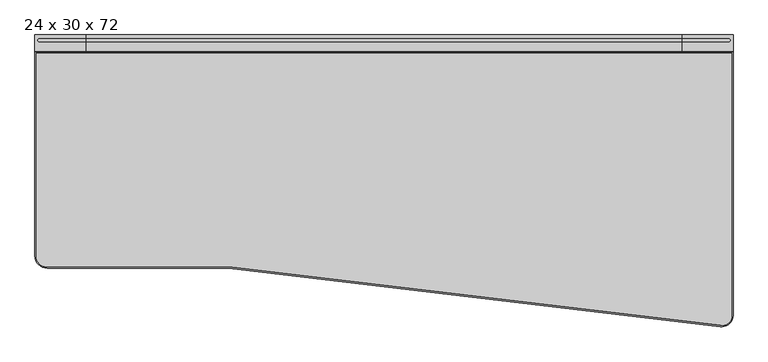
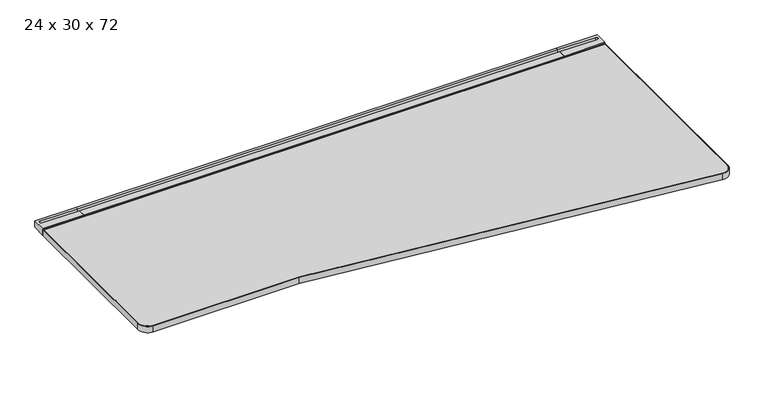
"""IFC4 building model written with IfcOpenShell, lengths in millimetres: furniture geometry, Steelcase - C Scape - Desking - Right Hand Transition : 24 x 30 x 72."""

from ifc_helpers import new_model, si_unit, point, frame, frame_2d, origin, place, context, project, spatial, polyline, circle_curve, trimmed, segment, composite_curve, outline, extrude, faceted_brep, source, transform, mapped, element, save
from ifc_brep_helpers import plane_surface, cylinder_surface, revolved_surface, advanced_brep


def furniture_24_x_30_x_72_6be4c41c(model_context):
    return source(origin(), model_context, "Body", "SolidModel", [
        advanced_brep(
        [(1694.1927124, -45.3135132, 703.3768), (1694.1927124, -45.3135132, 722.4268341), (1694.1927124, -42.7750923, 722.4268341), (1694.1927124, -42.7750923, 725.932), (1694.1927124, -19.3290527, 725.932), (1694.1927124, -19.3290527, 713.486), (1694.1927124, -8.5111084, 713.486), (1694.1927124, -8.5111084, 725.932), (1694.1927124, 0.0, 725.932), (1694.1927124, 0.0, 705.1038636), (1694.1927124, -3.2278472, 705.1038636), (1694.1927124, -4.0331902, 703.3768), (1827.2125, -45.3135132, 703.3768), (1827.2125, -4.0331902, 703.3768), (1827.2125, -3.2278472, 705.1038636), (1827.2125, 0.0, 705.1038636), (1827.2125, 0.0, 725.932), (1827.2125, -42.7750923, 725.932), (1827.2125, -42.7750923, 722.4268341), (1827.2125, -45.3135132, 722.4268341), (1815.4504272, -8.5111084, 725.932), (1815.4504272, -19.3290527, 725.932), (1815.4504272, -19.3290527, 713.486), (1815.4504272, -8.5111084, 713.486)],
        [
            (0, 1),
            (1, 2),
            (2, 3),
            (3, 4),
            (4, 5),
            (5, 6),
            (6, 7),
            (7, 8),
            (8, 9),
            (9, 10),
            (10, 11),
            (11, 0),
            (12, 13),
            (13, 14),
            (14, 15),
            (15, 16),
            (16, 17),
            (17, 18),
            (18, 19),
            (19, 12),
            (11, 13),
            (12, 0),
            (10, 14),
            (9, 15),
            (8, 16),
            (7, 20),
            (20, 21, circle_curve(frame((1815.4504272, -13.9200806, 725.932), z_axis=(0.0, 0.0, -1.0), x_axis=(-1.0, 0.0, 0.0)), 5.4089722)),
            (21, 4),
            (3, 17),
            (2, 18),
            (1, 19),
            (5, 22),
            (22, 23, circle_curve(frame((1815.4504272, -13.9200806, 713.486), z_axis=(0.0, 0.0, 1.0), x_axis=(-1.0, 0.0, 0.0)), 5.4089722)),
            (23, 6),
            (23, 20),
            (22, 21),
        ],
        [
            plane_surface(frame((1694.1927124, -45.3135132, 703.3768), z_axis=(-1.0, 0.0, 0.0), x_axis=(0.0, 1.0, 0.0))),
            plane_surface(frame((1827.2125, -45.3135132, 703.3768), z_axis=(1.0, 0.0, 0.0), x_axis=(0.0, -1.0, 0.0))),
            plane_surface(frame((1694.1927124, -45.3135132, 703.3768), z_axis=(0.0, 0.0, -1.0), x_axis=(1.0, 0.0, 0.0))),
            plane_surface(frame((1694.1927124, -4.0331902, 703.3768), z_axis=(0.0, 0.9063077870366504, -0.4226182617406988), x_axis=(1.0, 0.0, 0.0))),
            plane_surface(frame((1694.1927124, -3.2278472, 705.1038636), z_axis=(0.0, 0.0, -1.0), x_axis=(1.0, 0.0, 0.0))),
            plane_surface(frame((1694.1927124, 0.0, 705.1038636), z_axis=(0.0, 1.0, 0.0), x_axis=(1.0, 0.0, 0.0))),
            plane_surface(frame((1694.1927124, 0.0, 725.932), z_axis=(0.0, 0.0, 1.0), x_axis=(1.0, 0.0, 0.0))),
            plane_surface(frame((1694.1927124, -42.7750923, 725.932), z_axis=(0.0, -1.0, 0.0), x_axis=(1.0, 0.0, 0.0))),
            plane_surface(frame((1694.1927124, -42.7750923, 722.4268341), z_axis=(0.0, 0.0, 1.0), x_axis=(1.0, 0.0, 0.0))),
            plane_surface(frame((1694.1927124, -45.3135132, 722.4268341), z_axis=(0.0, -1.0, 0.0), x_axis=(1.0, 0.0, 0.0))),
            plane_surface(frame((1815.4504272, -8.5111084, 713.486), z_axis=(0.0, 0.0, 1.0), x_axis=(-1.0, 0.0, 0.0))),
            plane_surface(frame((1694.1927124, -8.5111084, 731.2180541), z_axis=(0.0, -1.0, 0.0), x_axis=(0.0, 0.0, -1.0))),
            revolved_surface(polyline([(1810.0414549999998, -13.9200806, 725.932), (1810.0414549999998, -13.9200806, 713.486)]), (1815.4504272, -13.9200806, 713.486), (0.0, 0.0, 1.0)),
            plane_surface(frame((1815.4504272, -19.3290527, 731.2180541), z_axis=(0.0, 1.0, 0.0), x_axis=(0.0, 0.0, -1.0))),
        ],
        [
            (0, [[1, 2, 3, 4, 5, 6, 7, 8, 9, 10, 11, 12]]),
            (1, [[13, 14, 15, 16, 17, 18, 19, 20]]),
            (2, [[21, -13, 22, -12]]),
            (3, [[23, -14, -21, -11]]),
            (4, [[24, -15, -23, -10]]),
            (5, [[25, -16, -24, -9]]),
            (6, [[-25, -8, 26, 27, 28, -4, 29, -17]]),
            (7, [[30, -18, -29, -3]]),
            (8, [[31, -19, -30, -2]]),
            (9, [[-22, -20, -31, -1]]),
            (10, [[-6, 32, 33, 34]]),
            (11, [[35, -26, -7, -34]]),
            (12, [[36, -27, -35, -33]]),
            (13, [[-5, -28, -36, -32]]),
        ],
    ),
        faceted_brep([(1808.1617368, -565.0752923, 700.7093833), (1808.1617368, -565.0752923, 703.3768), (1694.1927124, -565.0752923, 703.3768), (1694.1927124, -565.0752923, 679.3263935), (1709.8268699, -565.0752923, 679.3263935), (1712.4474121, -565.0752923, 693.4200291), (1793.8866272, -565.0752923, 693.4200291), (1808.1617368, -4.0331902, 700.7093833), (1793.8866272, -4.0331902, 693.4200291), (1712.4474121, -4.0331902, 693.4200291), (1700.5411653, -4.0331902, 629.3866), (1694.1927124, -4.0331902, 629.3866), (1694.1927124, -4.0331902, 703.3768), (1808.1617368, -4.0331902, 703.3768), (1707.6615949, -376.5599397, 667.6812472), (1700.5411653, -364.1172546, 629.3866), (1694.1927124, -364.1172546, 629.3866), (1694.1927124, -376.5599397, 667.6812472)], [[[0, 1, 2, 3, 4, 5, 6]], [[7, 8, 9, 10, 11, 12, 13]], [[6, 8, 7, 0]], [[5, 9, 8, 6]], [[9, 5, 4, 14, 15, 10]], [[10, 15, 16, 11]], [[11, 16, 17, 3, 2, 12]], [[1, 13, 12, 2]], [[0, 7, 13, 1]], [[14, 4, 3, 17]], [[17, 16, 15, 14]]]),
        extrude(outline(composite_curve([segment(polyline([(-293.5216187, 657.3775839), (-559.0022133, 680.1371551)]), True, "CONTINUOUS"), segment(trimmed(circle_curve(frame_2d((-558.7581271, 682.9843154)), 2.8576039), [point((-559.0022133, 680.1371551))], [point((-561.5383043, 682.3236226))], False, "CARTESIAN"), True, "CONTINUOUS"), segment(polyline([(-561.5383043, 682.3236226), (-566.0887542, 701.4717905), (-557.8334441, 701.4717905), (-557.8334441, 703.3768), (-442.6683806, 703.3768), (-442.6683806, 696.3917953), (-318.2108611, 696.3917953), (-318.2108611, 703.3768), (-293.5216187, 703.3768), (-293.5216187, 657.3775839)]), True, "CONTINUOUS")], self_intersect=False)), frame((877.824, 0.0, 0.0), z_axis=(1.0, 0.0, 0.0), x_axis=(0.0, 1.0, 0.0)), (0.0, 0.0, 1.0), 73.152),
        advanced_brep(
        [(134.6072876, -45.3135132, 703.3768), (134.6072876, -4.0331902, 703.3768), (134.6072876, -3.2278472, 705.1038636), (134.6072876, 0.0, 705.1038636), (134.6072876, 0.0, 725.932), (134.6072876, -8.5111084, 725.932), (134.6072876, -8.5111084, 713.486), (134.6072876, -19.3290527, 713.486), (134.6072876, -19.3290527, 725.932), (134.6072876, -42.7750923, 725.932), (134.6072876, -42.7750923, 722.4268341), (134.6072876, -45.3135132, 722.4268341), (1.5875, -45.3135132, 703.3768), (1.5875, -45.3135132, 722.4268341), (1.5875, -42.7750923, 722.4268341), (1.5875, -42.7750923, 725.932), (1.5875, 0.0, 725.932), (1.5875, 0.0, 705.1038636), (1.5875, -3.2278472, 705.1038636), (1.5875, -4.0331902, 703.3768), (13.3495728, -19.3290527, 725.932), (13.3495728, -8.5111084, 725.932), (13.3495728, -8.5111084, 713.486), (13.3495728, -19.3290527, 713.486)],
        [
            (0, 1),
            (1, 2),
            (2, 3),
            (3, 4),
            (4, 5),
            (5, 6),
            (6, 7),
            (7, 8),
            (8, 9),
            (9, 10),
            (10, 11),
            (11, 0),
            (12, 13),
            (13, 14),
            (14, 15),
            (15, 16),
            (16, 17),
            (17, 18),
            (18, 19),
            (19, 12),
            (0, 12),
            (19, 1),
            (18, 2),
            (17, 3),
            (16, 4),
            (15, 9),
            (8, 20),
            (20, 21, circle_curve(frame((13.3495728, -13.9200806, 725.932), z_axis=(0.0, 0.0, -1.0), x_axis=(1.0, 0.0, 0.0)), 5.4089722)),
            (21, 5),
            (14, 10),
            (13, 11),
            (6, 22),
            (22, 23, circle_curve(frame((13.3495728, -13.9200806, 713.486), z_axis=(0.0, 0.0, 1.0), x_axis=(1.0, 0.0, 0.0)), 5.4089722)),
            (23, 7),
            (21, 22),
            (20, 23),
        ],
        [
            plane_surface(frame((134.6072876, -45.3135132, 703.3768), z_axis=(1.0, 0.0, 0.0), x_axis=(0.0, 1.0, 0.0))),
            plane_surface(frame((1.5875, -45.3135132, 703.3768), z_axis=(-1.0, 0.0, 0.0), x_axis=(0.0, -1.0, 0.0))),
            plane_surface(frame((134.6072876, -45.3135132, 703.3768), z_axis=(0.0, 0.0, -1.0), x_axis=(-1.0, 0.0, 0.0))),
            plane_surface(frame((134.6072876, -4.0331902, 703.3768), z_axis=(0.0, 0.9063077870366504, -0.4226182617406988), x_axis=(-1.0, 0.0, 0.0))),
            plane_surface(frame((134.6072876, -3.2278472, 705.1038636), z_axis=(0.0, 0.0, -1.0), x_axis=(-1.0, 0.0, 0.0))),
            plane_surface(frame((134.6072876, 0.0, 705.1038636), z_axis=(0.0, 1.0, 0.0), x_axis=(-1.0, 0.0, 0.0))),
            plane_surface(frame((134.6072876, 0.0, 725.932), z_axis=(0.0, 0.0, 1.0), x_axis=(-1.0, 0.0, 0.0))),
            plane_surface(frame((134.6072876, -42.7750923, 725.932), z_axis=(0.0, -1.0, 0.0), x_axis=(-1.0, 0.0, 0.0))),
            plane_surface(frame((134.6072876, -42.7750923, 722.4268341), z_axis=(0.0, 0.0, 1.0), x_axis=(-1.0, 0.0, 0.0))),
            plane_surface(frame((134.6072876, -45.3135132, 722.4268341), z_axis=(0.0, -1.0, 0.0), x_axis=(-1.0, 0.0, 0.0))),
            plane_surface(frame((13.3495728, -8.5111084, 713.486), z_axis=(0.0, 0.0, 1.0), x_axis=(1.0, 0.0, 0.0))),
            plane_surface(frame((134.6072876, -8.5111084, 731.2180541), z_axis=(0.0, -1.0, 0.0), x_axis=(0.0, 0.0, -1.0))),
            revolved_surface(polyline([(18.758545, -13.9200806, 725.932), (18.758545, -13.9200806, 713.486)]), (13.3495728, -13.9200806, 713.486), (0.0, 0.0, 1.0)),
            plane_surface(frame((13.3495728, -19.3290527, 731.2180541), z_axis=(0.0, 1.0, 0.0), x_axis=(0.0, 0.0, -1.0))),
        ],
        [
            (0, [[1, 2, 3, 4, 5, 6, 7, 8, 9, 10, 11, 12]]),
            (1, [[13, 14, 15, 16, 17, 18, 19, 20]]),
            (2, [[-1, 21, -20, 22]]),
            (3, [[-2, -22, -19, 23]]),
            (4, [[-3, -23, -18, 24]]),
            (5, [[-4, -24, -17, 25]]),
            (6, [[-16, 26, -9, 27, 28, 29, -5, -25]]),
            (7, [[-10, -26, -15, 30]]),
            (8, [[-11, -30, -14, 31]]),
            (9, [[-12, -31, -13, -21]]),
            (10, [[32, 33, 34, -7]]),
            (11, [[-32, -6, -29, 35]]),
            (12, [[-33, -35, -28, 36]]),
            (13, [[-34, -36, -27, -8]]),
        ],
    ),
        faceted_brep([(20.6382632, -565.0752923, 700.7093833), (34.9133728, -565.0752923, 693.4200291), (116.3525879, -565.0752923, 693.4200291), (118.9731301, -565.0752923, 679.3263935), (134.6072876, -565.0752923, 679.3263935), (134.6072876, -565.0752923, 703.3768), (20.6382632, -565.0752923, 703.3768), (20.6382632, -4.0331902, 700.7093833), (20.6382632, -4.0331902, 703.3768), (134.6072876, -4.0331902, 703.3768), (134.6072876, -4.0331902, 629.3866), (128.2588347, -4.0331902, 629.3866), (116.3525879, -4.0331902, 693.4200291), (34.9133728, -4.0331902, 693.4200291), (128.2588347, -364.1172546, 629.3866), (121.1384051, -376.5599397, 667.6812472), (134.6072876, -364.1172546, 629.3866), (134.6072876, -376.5599397, 667.6812472)], [[[0, 1, 2, 3, 4, 5, 6]], [[7, 8, 9, 10, 11, 12, 13]], [[1, 0, 7, 13]], [[2, 1, 13, 12]], [[12, 11, 14, 15, 3, 2]], [[11, 10, 16, 14]], [[10, 9, 5, 4, 17, 16]], [[6, 5, 9, 8]], [[0, 6, 8, 7]], [[15, 17, 4, 3]], [[17, 15, 14, 16]]]),
        extrude(outline(polyline([(-8.5111084, 725.932), (0.0, 725.932), (0.0, 705.1038636), (-3.2278472, 705.1038636), (-4.0331902, 703.3768), (-45.3135132, 703.3768), (-45.3135132, 722.4268341), (-42.7750923, 722.4268341), (-42.7750923, 725.932), (-19.3290527, 725.932), (-19.3290527, 713.486), (-8.5111084, 713.486), (-8.5111084, 725.932)])), frame((134.6072876, 0.0, 0.0), z_axis=(1.0, 0.0, 0.0), x_axis=(0.0, 1.0, 0.0)), (0.0, 0.0, 1.0), 1559.5854248),
        extrude(outline(polyline([(134.6072876, -293.5216187), (134.6072876, -4.0331902), (1694.1927124, -4.0331902), (1694.1927124, -293.5216187), (134.6072876, -293.5216187)])), frame((0.0, 0.0, 629.3866), z_axis=(0.0, 0.0, 1.0), x_axis=(1.0, 0.0, 0.0)), (0.0, 0.0, 1.0), 73.9902),
        advanced_brep(
        [(4.6355, -48.3660689, 723.9), (4.6355, -577.85, 723.9), (33.3375, -606.5490234, 723.9), (508.0002405, -606.5490234, 723.9), (1794.8488255, -759.7737122, 723.9), (1824.1645, -734.677348, 723.9), (1824.1645, -48.3660689, 723.9), (4.6355, -48.3660689, 703.3768), (1824.1645, -48.3660689, 703.3768), (1824.1645, -734.677348, 703.3768), (1794.8488255, -759.7737122, 703.3768), (508.0002405, -606.5490234, 703.3768), (33.3375, -606.5490234, 703.3768), (4.6384766, -577.85, 703.3768)],
        [
            (0, 1),
            (1, 2, circle_curve(frame((33.3375, -577.85, 723.9), z_axis=(0.0, 0.0, 1.0), x_axis=(1.0, 0.0, 0.0)), 28.6990234)),
            (2, 3),
            (3, 4),
            (4, 5, circle_curve(frame((1798.7645, -734.677348, 723.9), z_axis=(0.0, 0.0, 1.0), x_axis=(1.0, 0.0, 0.0)), 25.4)),
            (5, 6),
            (6, 0),
            (7, 8),
            (8, 9),
            (9, 10, circle_curve(frame((1798.7645, -734.677348, 703.3768), z_axis=(0.0, 0.0, -1.0), x_axis=(1.0, 0.0, 0.0)), 25.4)),
            (10, 11),
            (11, 12),
            (12, 13, circle_curve(frame((33.3375, -577.85, 703.3768), z_axis=(0.0, 0.0, -1.0), x_axis=(1.0, 0.0, 0.0)), 28.6990234)),
            (13, 7),
            (0, 7),
            (13, 1),
            (12, 2),
            (11, 3),
            (10, 4),
            (9, 5),
            (8, 6),
        ],
        [
            plane_surface(frame((4.6355, -48.3660689, 723.9), z_axis=(0.0, 0.0, 1.0), x_axis=(0.0, -1.0, 0.0))),
            plane_surface(frame((4.6355, -48.3660689, 703.3768), z_axis=(0.0, 0.0, -1.0), x_axis=(0.0, 1.0, 0.0))),
            plane_surface(frame((4.6355, -48.3660689, 723.9), z_axis=(-1.0, 0.0, 0.0), x_axis=(0.0, 0.0, -1.0))),
            cylinder_surface(frame((33.3375, -577.85, 703.3768), z_axis=(0.0, 0.0, 1.0), x_axis=(1.0, 0.0, 0.0)), 28.6990234),
            plane_surface(frame((33.3375, -606.5490234, 723.9), z_axis=(0.0, -1.0, 0.0), x_axis=(0.0, 0.0, -1.0))),
            plane_surface(frame((508.0002405, -606.5490234, 723.9), z_axis=(-0.11823451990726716, -0.9929856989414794, 0.0), x_axis=(0.0, 0.0, -1.0))),
            cylinder_surface(frame((1798.7645, -734.677348, 703.3768), z_axis=(0.0, 0.0, 1.0), x_axis=(1.0, 0.0, 0.0)), 25.4),
            plane_surface(frame((1824.1645, -734.677348, 723.9), z_axis=(1.0, 0.0, 0.0), x_axis=(0.0, 0.0, -1.0))),
            plane_surface(frame((1824.1645, -48.3660689, 723.9), z_axis=(0.0, 1.0, 0.0), x_axis=(0.0, 0.0, -1.0))),
        ],
        [
            (0, [[1, 2, 3, 4, 5, 6, 7]]),
            (1, [[8, 9, 10, 11, 12, 13, 14]]),
            (2, [[-1, 15, -14, 16]]),
            (3, [[-2, -16, -13, 17]]),
            (4, [[-3, -17, -12, 18]]),
            (5, [[-4, -18, -11, 19]]),
            (6, [[-5, -19, -10, 20]]),
            (7, [[-6, -20, -9, 21]]),
            (8, [[-7, -21, -8, -15]]),
        ],
    ),
        advanced_brep(
        [(1827.2125, -45.3150923, 703.3768), (1827.2125, -45.3150923, 723.9), (1827.2125, -733.2875177, 723.9), (1827.2125, -733.2875177, 703.3768), (1824.1615234, -48.3660689, 723.9), (1824.1615234, -48.3660689, 703.3768), (1824.1615234, -733.2875177, 703.3768), (1824.1615234, -733.2875177, 723.9), (1793.0391868, -762.5423763, 703.3768), (1793.0391868, -762.5423763, 723.9), (1793.5095266, -759.5278717, 723.9), (1793.5095266, -759.5278717, 703.3768), (508.0, -609.6, 723.9), (1.5875, -45.3150923, 723.9), (1.5875, -577.85, 723.9), (33.3375, -609.6, 723.9), (508.1809216, -606.5490234, 723.9), (33.3375, -606.5490234, 723.9), (4.6384766, -577.85, 723.9), (4.6384766, -48.3660689, 723.9), (508.0, -609.6, 703.3768), (33.3375, -609.6, 703.3768), (1.5875, -577.85, 703.3768), (1.5875, -45.3150923, 703.3768), (508.1809216, -606.5490234, 703.3768), (4.6384766, -48.3660689, 703.3768), (4.6384766, -577.85, 703.3768), (33.3375, -606.5490234, 703.3768)],
        [
            (0, 1),
            (1, 2),
            (2, 3),
            (3, 0),
            (4, 5),
            (5, 6),
            (6, 7),
            (7, 4),
            (8, 3, circle_curve(frame((1797.6036927, -733.2875177, 703.3768), z_axis=(0.0, 0.0, 1.0), x_axis=(1.0, 0.0, 0.0)), 29.6088073)),
            (2, 9, circle_curve(frame((1797.6036927, -733.2875177, 723.9), z_axis=(0.0, 0.0, -1.0), x_axis=(1.0, 0.0, 0.0)), 29.6088073)),
            (9, 8),
            (10, 7, circle_curve(frame((1797.6036927, -733.2875177, 723.9), z_axis=(0.0, 0.0, 1.0), x_axis=(1.0, 0.0, 0.0)), 26.5578307)),
            (6, 11, circle_curve(frame((1797.6036927, -733.2875177, 703.3768), z_axis=(0.0, 0.0, -1.0), x_axis=(1.0, 0.0, 0.0)), 26.5578307)),
            (11, 10),
            (12, 9),
            (1, 13),
            (13, 14),
            (14, 15, circle_curve(frame((33.3375, -577.85, 723.9), z_axis=(0.0, 0.0, 1.0), x_axis=(0.0, -1.0, 0.0)), 31.75)),
            (15, 12),
            (10, 16),
            (16, 17),
            (17, 18, circle_curve(frame((33.3375, -577.85, 723.9), z_axis=(0.0, 0.0, -1.0), x_axis=(0.0, -1.0, 0.0)), 28.6990234)),
            (18, 19),
            (19, 4),
            (12, 20),
            (20, 8),
            (20, 21),
            (21, 22, circle_curve(frame((33.3375, -577.85, 703.3768), z_axis=(0.0, 0.0, -1.0), x_axis=(0.0, -1.0, 0.0)), 31.75)),
            (22, 23),
            (23, 0),
            (24, 11),
            (5, 25),
            (25, 26),
            (26, 27, circle_curve(frame((33.3375, -577.85, 703.3768), z_axis=(0.0, 0.0, 1.0), x_axis=(0.0, -1.0, 0.0)), 28.6990234)),
            (27, 24),
            (24, 16),
            (15, 21),
            (27, 17),
            (14, 22),
            (26, 18),
            (13, 23),
            (25, 19),
        ],
        [
            plane_surface(frame((1827.2125, -45.3150923, 723.9), z_axis=(1.0, 0.0, 0.0), x_axis=(0.0, -1.0, 0.0))),
            plane_surface(frame((1824.1615234, -48.3660689, 703.3768), z_axis=(-1.0, 0.0, 0.0), x_axis=(0.0, -1.0, 0.0))),
            cylinder_surface(frame((1797.6036927, -733.2875177, 0.0), z_axis=(0.0, 0.0, -1.0), x_axis=(1.0, 0.0, 0.0)), 29.6088073),
            revolved_surface(polyline([(1824.1615234, -733.2875177, 703.3768), (1824.1615234, -733.2875177, 723.9)]), (1797.6036927, -733.2875177, 0.0), (0.0, 0.0, -1.0)),
            plane_surface(frame((1793.5098369, -759.5258826, 723.9), z_axis=(0.0, 0.0, 1.0), x_axis=(-0.9929917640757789, 0.11818357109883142, 0.0))),
            plane_surface(frame((1793.0391868, -762.5423763, 723.9), z_axis=(-0.1181835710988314, -0.992991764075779, 0.0), x_axis=(-0.992991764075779, 0.1181835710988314, 0.0))),
            plane_surface(frame((1793.0391868, -762.5423763, 703.3768), z_axis=(0.0, 0.0, -1.0000000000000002), x_axis=(-0.992991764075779, 0.11818357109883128, 0.0))),
            plane_surface(frame((1793.5098369, -759.5258826, 703.3768), z_axis=(0.1181835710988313, 0.9929917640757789, 0.0), x_axis=(-0.9929917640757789, 0.1181835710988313, 0.0))),
            plane_surface(frame((508.0, -609.6, 723.9), z_axis=(0.0, -1.0, 0.0), x_axis=(-1.0, 0.0, 0.0))),
            plane_surface(frame((508.1809216, -606.5490234, 703.3768), z_axis=(0.0, 1.0, 0.0), x_axis=(-1.0, 0.0, 0.0))),
            cylinder_surface(frame((33.3375, -577.85, 0.0), z_axis=(0.0, 0.0, -1.0), x_axis=(0.0, -1.0, 0.0)), 31.75),
            revolved_surface(polyline([(33.3375, -606.5490234, 703.3768), (33.3375, -606.5490234, 723.9)]), (33.3375, -577.85, 0.0), (0.0, 0.0, -1.0)),
            plane_surface(frame((1.5875, -577.85, 723.9), z_axis=(-1.0, 0.0, 0.0), x_axis=(0.0, 1.0, 0.0))),
            plane_surface(frame((4.6384766, -577.85, 703.3768), z_axis=(1.0, 0.0, 0.0), x_axis=(0.0, 1.0, 0.0))),
            plane_surface(frame((1.5875, -45.3150923, 723.9), z_axis=(0.0, 1.0, 0.0), x_axis=(1.0, 0.0, 0.0))),
            plane_surface(frame((4.6384766, -48.3660689, 703.3768), z_axis=(0.0, -1.0, 0.0), x_axis=(1.0, 0.0, 0.0))),
        ],
        [
            (0, [[1, 2, 3, 4]]),
            (1, [[5, 6, 7, 8]]),
            (2, [[9, -3, 10, 11]]),
            (3, [[12, -7, 13, 14]]),
            (4, [[15, -10, -2, 16, 17, 18, 19], [-8, -12, 20, 21, 22, 23, 24]]),
            (5, [[-11, -15, 25, 26]]),
            (6, [[-4, -9, -26, 27, 28, 29, 30], [31, -13, -6, 32, 33, 34, 35]]),
            (7, [[-14, -31, 36, -20]]),
            (8, [[-25, -19, 37, -27]]),
            (9, [[-36, -35, 38, -21]]),
            (10, [[-28, -37, -18, 39]]),
            (11, [[-22, -38, -34, 40]]),
            (12, [[-39, -17, 41, -29]]),
            (13, [[-40, -33, 42, -23]]),
            (14, [[-41, -16, -1, -30]]),
            (15, [[-42, -32, -5, -24]]),
        ],
    ),
    ])


if __name__ == "__main__":
    model = new_model("IFC4")
    model_context = context("Model", 3, world=origin())
    ifc_project = project(units=[si_unit("LENGTHUNIT", "METRE", prefix="MILLI")], contexts=[model_context])
    site = spatial("IfcSite", under=ifc_project)
    building = spatial("IfcBuilding", under=site)
    placement = place(None, origin())
    furniture_24_x_30_x_72_shape = furniture_24_x_30_x_72_6be4c41c(model_context)
    element("IfcFurniture", 1, ObjectType="Steelcase - C Scape - Desking - Right Hand Transition : 24 x 30 x 72", at=placement, inside=building, context=model_context, shape_type="MappedRepresentation", body=[
        mapped(furniture_24_x_30_x_72_shape, transform((0.0, 0.0, 0.0), x_axis=(1.0, 0.0, 0.0), y_axis=(0.0, 1.0, 0.0), z_axis=(0.0, 0.0, 1.0))),
    ])
    save(model, "model.ifc")
